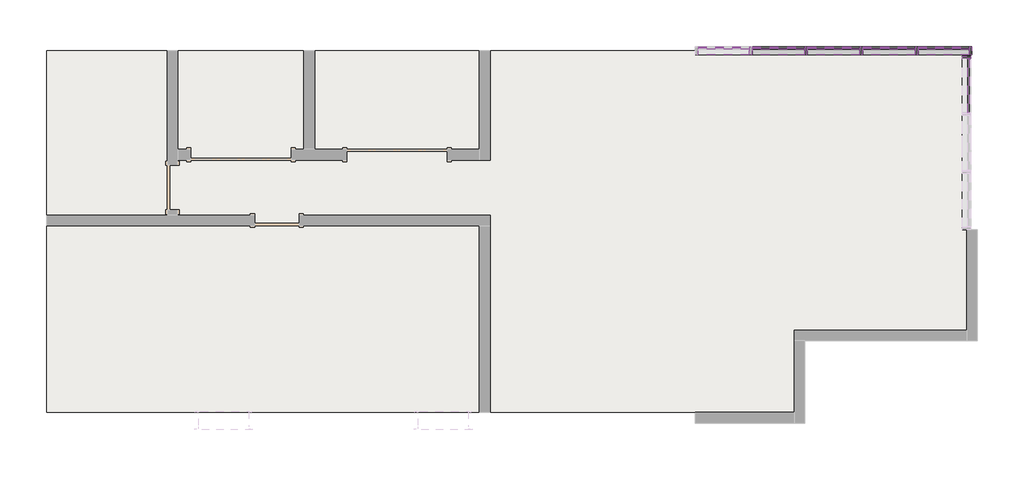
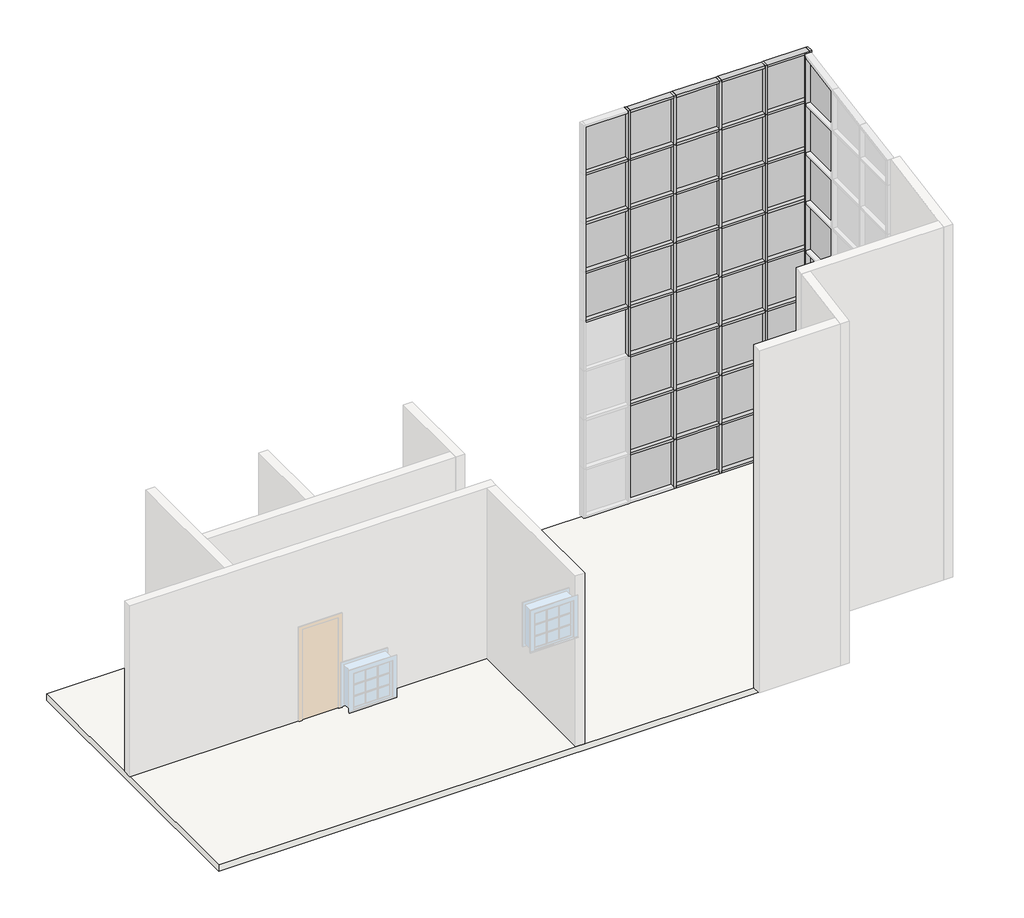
# One storey, part 2 of 2: 85 members, 44 plates, 1 slab.
"""IFC4 building model written with IfcOpenShell, lengths in millimetres."""

from ifc_helpers import new_model, si_unit, frame, origin, place, context, project, spatial, polyline, outline, extrude, transform, mapped, element, save
from components import member_50_x_150mm_5125db45, member_50_x_150mm_73edeec2, member_50_x_150mm_30901565, member_50_x_150mm_0a6a9f7f, member_50_x_150mm_aa95aaac, member_50_x_150mm_038a97c0, member_50_x_150mm_b8228058, member_50_x_150mm_b83a1f72, member_50_x_150mm_050e1f32, plate_c1ab5d1c, plate_5f0fc48b, plate_09d56e0c, plate_5067366c, plate_65d05d4c, plate_045547b7, plate_96cb0325

model = new_model("IFC4")

# Units and contexts
model_context = context("Model", 3, world=origin())
ifc_project = project(units=[si_unit("LENGTHUNIT", "METRE", prefix="MILLI")], contexts=[model_context])

# Site, building, storey
site = spatial("IfcSite", under=ifc_project)
building = spatial("IfcBuilding", under=site)
storey = spatial("IfcBuildingStorey", under=building, Name="01 下方樓層", Elevation=-4000.0)

# Members
placement = place(None, origin())
member_50_x_150mm_shape = member_50_x_150mm_5125db45(model_context)
element("IfcMember", 1, ObjectType="矩形豎框 : 50 x 150mm", at=placement, inside=storey, context=model_context, shape_type="MappedRepresentation", body=[
    mapped(member_50_x_150mm_shape, transform((10602.9445117, 850.8362183, 5199.0234688), x_axis=(0.0, 0.0, 1.0), y_axis=(0.0, -1.0, 0.0), z_axis=(1.0, 0.0, 0.0))),
])
element("IfcMember", 2, ObjectType="矩形豎框 : 50 x 150mm", at=placement, inside=storey, context=model_context, shape_type="MappedRepresentation", body=[
    mapped(member_50_x_150mm_shape, transform((9667.9445117, 850.8362183, -4000.0), x_axis=(0.0, 0.0, -1.0), y_axis=(0.0, -1.0, 0.0), z_axis=(-1.0, 0.0, 0.0))),
])
member_50_x_150mm_2_shape = member_50_x_150mm_73edeec2(model_context)
element("IfcMember", 3, ObjectType="矩形豎框 : 50 x 150mm", at=placement, inside=storey, context=model_context, shape_type="MappedRepresentation", body=[
    mapped(member_50_x_150mm_2_shape, transform((7597.9445117, 850.8362183, 5199.0234688), x_axis=(0.0, 0.0, 1.0), y_axis=(0.0, -1.0, 0.0), z_axis=(1.0, 0.0, 0.0))),
])
element("IfcMember", 4, ObjectType="矩形豎框 : 50 x 150mm", at=placement, inside=storey, context=model_context, shape_type="MappedRepresentation", body=[
    mapped(member_50_x_150mm_2_shape, transform((8607.9445117, 850.8362183, 5199.0234688), x_axis=(0.0, 0.0, 1.0), y_axis=(0.0, -1.0, 0.0), z_axis=(1.0, 0.0, 0.0))),
])
element("IfcMember", 5, ObjectType="矩形豎框 : 50 x 150mm", at=placement, inside=storey, context=model_context, shape_type="MappedRepresentation", body=[
    mapped(member_50_x_150mm_2_shape, transform((9617.9445117, 850.8362183, 5199.0234688), x_axis=(0.0, 0.0, 1.0), y_axis=(0.0, -1.0, 0.0), z_axis=(1.0, 0.0, 0.0))),
])
element("IfcMember", 6, ObjectType="矩形豎框 : 50 x 150mm", at=placement, inside=storey, context=model_context, shape_type="MappedRepresentation", body=[
    mapped(member_50_x_150mm_2_shape, transform((7647.9445117, 850.8362183, -4000.0), x_axis=(0.0, 0.0, -1.0), y_axis=(0.0, -1.0, 0.0), z_axis=(-1.0, 0.0, 0.0))),
])
element("IfcMember", 7, ObjectType="矩形豎框 : 50 x 150mm", at=placement, inside=storey, context=model_context, shape_type="MappedRepresentation", body=[
    mapped(member_50_x_150mm_2_shape, transform((8657.9445117, 850.8362183, -4000.0), x_axis=(0.0, 0.0, -1.0), y_axis=(0.0, -1.0, 0.0), z_axis=(-1.0, 0.0, 0.0))),
])
member_50_x_150mm_3_shape = member_50_x_150mm_30901565(model_context)
element("IfcMember", 8, ObjectType="矩形豎框 : 50 x 150mm", at=placement, inside=storey, context=model_context, shape_type="MappedRepresentation", body=[
    mapped(member_50_x_150mm_3_shape, transform((10602.9445117, 850.8362183, -2850.1220664), x_axis=(0.0, 0.0, 1.0), y_axis=(0.0, -1.0, 0.0), z_axis=(1.0, 0.0, 0.0))),
])
element("IfcMember", 9, ObjectType="矩形豎框 : 50 x 150mm", at=placement, inside=storey, context=model_context, shape_type="MappedRepresentation", body=[
    mapped(member_50_x_150mm_3_shape, transform((10602.9445117, 850.8362183, -1700.2441328), x_axis=(0.0, 0.0, 1.0), y_axis=(0.0, -1.0, 0.0), z_axis=(1.0, 0.0, 0.0))),
])
element("IfcMember", 10, ObjectType="矩形豎框 : 50 x 150mm", at=placement, inside=storey, context=model_context, shape_type="MappedRepresentation", body=[
    mapped(member_50_x_150mm_3_shape, transform((10602.9445117, 850.8362183, -550.3661992), x_axis=(0.0, 0.0, 1.0), y_axis=(0.0, -1.0, 0.0), z_axis=(1.0, 0.0, 0.0))),
])
element("IfcMember", 11, ObjectType="矩形豎框 : 50 x 150mm", at=placement, inside=storey, context=model_context, shape_type="MappedRepresentation", body=[
    mapped(member_50_x_150mm_3_shape, transform((6587.9445117, 850.8362183, 599.5117344), x_axis=(0.0, 0.0, 1.0), y_axis=(0.0, -1.0, 0.0), z_axis=(1.0, 0.0, 0.0))),
])
element("IfcMember", 12, ObjectType="矩形豎框 : 50 x 150mm", at=placement, inside=storey, context=model_context, shape_type="MappedRepresentation", body=[
    mapped(member_50_x_150mm_3_shape, transform((10602.9445117, 850.8362183, 599.5117344), x_axis=(0.0, 0.0, 1.0), y_axis=(0.0, -1.0, 0.0), z_axis=(1.0, 0.0, 0.0))),
])
element("IfcMember", 13, ObjectType="矩形豎框 : 50 x 150mm", at=placement, inside=storey, context=model_context, shape_type="MappedRepresentation", body=[
    mapped(member_50_x_150mm_3_shape, transform((6587.9445117, 850.8362183, 1749.389668), x_axis=(0.0, 0.0, 1.0), y_axis=(0.0, -1.0, 0.0), z_axis=(1.0, 0.0, 0.0))),
])
element("IfcMember", 14, ObjectType="矩形豎框 : 50 x 150mm", at=placement, inside=storey, context=model_context, shape_type="MappedRepresentation", body=[
    mapped(member_50_x_150mm_3_shape, transform((10602.9445117, 850.8362183, 1749.389668), x_axis=(0.0, 0.0, 1.0), y_axis=(0.0, -1.0, 0.0), z_axis=(1.0, 0.0, 0.0))),
])
element("IfcMember", 15, ObjectType="矩形豎框 : 50 x 150mm", at=placement, inside=storey, context=model_context, shape_type="MappedRepresentation", body=[
    mapped(member_50_x_150mm_3_shape, transform((6587.9445117, 850.8362183, 2899.2676016), x_axis=(0.0, 0.0, 1.0), y_axis=(0.0, -1.0, 0.0), z_axis=(1.0, 0.0, 0.0))),
])
element("IfcMember", 16, ObjectType="矩形豎框 : 50 x 150mm", at=placement, inside=storey, context=model_context, shape_type="MappedRepresentation", body=[
    mapped(member_50_x_150mm_3_shape, transform((10602.9445117, 850.8362183, 2899.2676016), x_axis=(0.0, 0.0, 1.0), y_axis=(0.0, -1.0, 0.0), z_axis=(1.0, 0.0, 0.0))),
])
element("IfcMember", 17, ObjectType="矩形豎框 : 50 x 150mm", at=placement, inside=storey, context=model_context, shape_type="MappedRepresentation", body=[
    mapped(member_50_x_150mm_3_shape, transform((6587.9445117, 850.8362183, 4049.1455352), x_axis=(0.0, 0.0, 1.0), y_axis=(0.0, -1.0, 0.0), z_axis=(1.0, 0.0, 0.0))),
])
element("IfcMember", 18, ObjectType="矩形豎框 : 50 x 150mm", at=placement, inside=storey, context=model_context, shape_type="MappedRepresentation", body=[
    mapped(member_50_x_150mm_3_shape, transform((10602.9445117, 850.8362183, 4049.1455352), x_axis=(0.0, 0.0, 1.0), y_axis=(0.0, -1.0, 0.0), z_axis=(1.0, 0.0, 0.0))),
])
member_50_x_150mm_4_shape = member_50_x_150mm_0a6a9f7f(model_context)
element("IfcMember", 19, ObjectType="矩形豎框 : 50 x 150mm", at=placement, inside=storey, context=model_context, shape_type="MappedRepresentation", body=[
    mapped(member_50_x_150mm_4_shape, transform((7597.9445117, 850.8362183, -2850.1220664), x_axis=(0.0, 0.0, 1.0), y_axis=(0.0, -1.0, 0.0), z_axis=(1.0, 0.0, 0.0))),
])
element("IfcMember", 20, ObjectType="矩形豎框 : 50 x 150mm", at=placement, inside=storey, context=model_context, shape_type="MappedRepresentation", body=[
    mapped(member_50_x_150mm_4_shape, transform((8607.9445117, 850.8362183, -2850.1220664), x_axis=(0.0, 0.0, 1.0), y_axis=(0.0, -1.0, 0.0), z_axis=(1.0, 0.0, 0.0))),
])
element("IfcMember", 21, ObjectType="矩形豎框 : 50 x 150mm", at=placement, inside=storey, context=model_context, shape_type="MappedRepresentation", body=[
    mapped(member_50_x_150mm_4_shape, transform((9617.9445117, 850.8362183, -2850.1220664), x_axis=(0.0, 0.0, 1.0), y_axis=(0.0, -1.0, 0.0), z_axis=(1.0, 0.0, 0.0))),
])
element("IfcMember", 22, ObjectType="矩形豎框 : 50 x 150mm", at=placement, inside=storey, context=model_context, shape_type="MappedRepresentation", body=[
    mapped(member_50_x_150mm_4_shape, transform((7597.9445117, 850.8362183, -1700.2441328), x_axis=(0.0, 0.0, 1.0), y_axis=(0.0, -1.0, 0.0), z_axis=(1.0, 0.0, 0.0))),
])
element("IfcMember", 23, ObjectType="矩形豎框 : 50 x 150mm", at=placement, inside=storey, context=model_context, shape_type="MappedRepresentation", body=[
    mapped(member_50_x_150mm_4_shape, transform((8607.9445117, 850.8362183, -1700.2441328), x_axis=(0.0, 0.0, 1.0), y_axis=(0.0, -1.0, 0.0), z_axis=(1.0, 0.0, 0.0))),
])
element("IfcMember", 24, ObjectType="矩形豎框 : 50 x 150mm", at=placement, inside=storey, context=model_context, shape_type="MappedRepresentation", body=[
    mapped(member_50_x_150mm_4_shape, transform((9617.9445117, 850.8362183, -1700.2441328), x_axis=(0.0, 0.0, 1.0), y_axis=(0.0, -1.0, 0.0), z_axis=(1.0, 0.0, 0.0))),
])
element("IfcMember", 25, ObjectType="矩形豎框 : 50 x 150mm", at=placement, inside=storey, context=model_context, shape_type="MappedRepresentation", body=[
    mapped(member_50_x_150mm_4_shape, transform((7597.9445117, 850.8362183, -550.3661992), x_axis=(0.0, 0.0, 1.0), y_axis=(0.0, -1.0, 0.0), z_axis=(1.0, 0.0, 0.0))),
])
element("IfcMember", 26, ObjectType="矩形豎框 : 50 x 150mm", at=placement, inside=storey, context=model_context, shape_type="MappedRepresentation", body=[
    mapped(member_50_x_150mm_4_shape, transform((8607.9445117, 850.8362183, -550.3661992), x_axis=(0.0, 0.0, 1.0), y_axis=(0.0, -1.0, 0.0), z_axis=(1.0, 0.0, 0.0))),
])
element("IfcMember", 27, ObjectType="矩形豎框 : 50 x 150mm", at=placement, inside=storey, context=model_context, shape_type="MappedRepresentation", body=[
    mapped(member_50_x_150mm_4_shape, transform((9617.9445117, 850.8362183, -550.3661992), x_axis=(0.0, 0.0, 1.0), y_axis=(0.0, -1.0, 0.0), z_axis=(1.0, 0.0, 0.0))),
])
element("IfcMember", 28, ObjectType="矩形豎框 : 50 x 150mm", at=placement, inside=storey, context=model_context, shape_type="MappedRepresentation", body=[
    mapped(member_50_x_150mm_4_shape, transform((7597.9445117, 850.8362183, 599.5117344), x_axis=(0.0, 0.0, 1.0), y_axis=(0.0, -1.0, 0.0), z_axis=(1.0, 0.0, 0.0))),
])
element("IfcMember", 29, ObjectType="矩形豎框 : 50 x 150mm", at=placement, inside=storey, context=model_context, shape_type="MappedRepresentation", body=[
    mapped(member_50_x_150mm_4_shape, transform((8607.9445117, 850.8362183, 599.5117344), x_axis=(0.0, 0.0, 1.0), y_axis=(0.0, -1.0, 0.0), z_axis=(1.0, 0.0, 0.0))),
])
element("IfcMember", 30, ObjectType="矩形豎框 : 50 x 150mm", at=placement, inside=storey, context=model_context, shape_type="MappedRepresentation", body=[
    mapped(member_50_x_150mm_4_shape, transform((9617.9445117, 850.8362183, 599.5117344), x_axis=(0.0, 0.0, 1.0), y_axis=(0.0, -1.0, 0.0), z_axis=(1.0, 0.0, 0.0))),
])
element("IfcMember", 31, ObjectType="矩形豎框 : 50 x 150mm", at=placement, inside=storey, context=model_context, shape_type="MappedRepresentation", body=[
    mapped(member_50_x_150mm_4_shape, transform((7597.9445117, 850.8362183, 1749.389668), x_axis=(0.0, 0.0, 1.0), y_axis=(0.0, -1.0, 0.0), z_axis=(1.0, 0.0, 0.0))),
])
element("IfcMember", 32, ObjectType="矩形豎框 : 50 x 150mm", at=placement, inside=storey, context=model_context, shape_type="MappedRepresentation", body=[
    mapped(member_50_x_150mm_4_shape, transform((8607.9445117, 850.8362183, 1749.389668), x_axis=(0.0, 0.0, 1.0), y_axis=(0.0, -1.0, 0.0), z_axis=(1.0, 0.0, 0.0))),
])
element("IfcMember", 33, ObjectType="矩形豎框 : 50 x 150mm", at=placement, inside=storey, context=model_context, shape_type="MappedRepresentation", body=[
    mapped(member_50_x_150mm_4_shape, transform((9617.9445117, 850.8362183, 1749.389668), x_axis=(0.0, 0.0, 1.0), y_axis=(0.0, -1.0, 0.0), z_axis=(1.0, 0.0, 0.0))),
])
element("IfcMember", 34, ObjectType="矩形豎框 : 50 x 150mm", at=placement, inside=storey, context=model_context, shape_type="MappedRepresentation", body=[
    mapped(member_50_x_150mm_4_shape, transform((7597.9445117, 850.8362183, 2899.2676016), x_axis=(0.0, 0.0, 1.0), y_axis=(0.0, -1.0, 0.0), z_axis=(1.0, 0.0, 0.0))),
])
element("IfcMember", 35, ObjectType="矩形豎框 : 50 x 150mm", at=placement, inside=storey, context=model_context, shape_type="MappedRepresentation", body=[
    mapped(member_50_x_150mm_4_shape, transform((8607.9445117, 850.8362183, 2899.2676016), x_axis=(0.0, 0.0, 1.0), y_axis=(0.0, -1.0, 0.0), z_axis=(1.0, 0.0, 0.0))),
])
element("IfcMember", 36, ObjectType="矩形豎框 : 50 x 150mm", at=placement, inside=storey, context=model_context, shape_type="MappedRepresentation", body=[
    mapped(member_50_x_150mm_4_shape, transform((9617.9445117, 850.8362183, 2899.2676016), x_axis=(0.0, 0.0, 1.0), y_axis=(0.0, -1.0, 0.0), z_axis=(1.0, 0.0, 0.0))),
])
element("IfcMember", 37, ObjectType="矩形豎框 : 50 x 150mm", at=placement, inside=storey, context=model_context, shape_type="MappedRepresentation", body=[
    mapped(member_50_x_150mm_4_shape, transform((7597.9445117, 850.8362183, 4049.1455352), x_axis=(0.0, 0.0, 1.0), y_axis=(0.0, -1.0, 0.0), z_axis=(1.0, 0.0, 0.0))),
])
element("IfcMember", 38, ObjectType="矩形豎框 : 50 x 150mm", at=placement, inside=storey, context=model_context, shape_type="MappedRepresentation", body=[
    mapped(member_50_x_150mm_4_shape, transform((8607.9445117, 850.8362183, 4049.1455352), x_axis=(0.0, 0.0, 1.0), y_axis=(0.0, -1.0, 0.0), z_axis=(1.0, 0.0, 0.0))),
])
element("IfcMember", 39, ObjectType="矩形豎框 : 50 x 150mm", at=placement, inside=storey, context=model_context, shape_type="MappedRepresentation", body=[
    mapped(member_50_x_150mm_4_shape, transform((9617.9445117, 850.8362183, 4049.1455352), x_axis=(0.0, 0.0, 1.0), y_axis=(0.0, -1.0, 0.0), z_axis=(1.0, 0.0, 0.0))),
])
member_50_x_150mm_5_shape = member_50_x_150mm_aa95aaac(model_context)
element("IfcMember", 40, ObjectType="矩形豎框 : 50 x 150mm", at=placement, inside=storey, context=model_context, shape_type="MappedRepresentation", body=[
    mapped(member_50_x_150mm_5_shape, transform((7622.9445117, 850.8362183, -4000.0), x_axis=(1.0, 0.0, 0.0), y_axis=(0.0, -1.0, 0.0), z_axis=(0.0, 0.0, -1.0))),
])
element("IfcMember", 41, ObjectType="矩形豎框 : 50 x 150mm", at=placement, inside=storey, context=model_context, shape_type="MappedRepresentation", body=[
    mapped(member_50_x_150mm_5_shape, transform((8632.9445117, 850.8362183, -4000.0), x_axis=(1.0, 0.0, 0.0), y_axis=(0.0, -1.0, 0.0), z_axis=(0.0, 0.0, -1.0))),
])
element("IfcMember", 42, ObjectType="矩形豎框 : 50 x 150mm", at=placement, inside=storey, context=model_context, shape_type="MappedRepresentation", body=[
    mapped(member_50_x_150mm_5_shape, transform((9642.9445117, 850.8362183, -4000.0), x_axis=(1.0, 0.0, 0.0), y_axis=(0.0, -1.0, 0.0), z_axis=(0.0, 0.0, -1.0))),
])
element("IfcMember", 43, ObjectType="矩形豎框 : 50 x 150mm", at=placement, inside=storey, context=model_context, shape_type="MappedRepresentation", body=[
    mapped(member_50_x_150mm_5_shape, transform((7622.9445117, 850.8362183, -2850.1220664), x_axis=(1.0, 0.0, 0.0), y_axis=(0.0, -1.0, 0.0), z_axis=(0.0, 0.0, -1.0))),
])
element("IfcMember", 44, ObjectType="矩形豎框 : 50 x 150mm", at=placement, inside=storey, context=model_context, shape_type="MappedRepresentation", body=[
    mapped(member_50_x_150mm_5_shape, transform((8632.9445117, 850.8362183, -2850.1220664), x_axis=(1.0, 0.0, 0.0), y_axis=(0.0, -1.0, 0.0), z_axis=(0.0, 0.0, -1.0))),
])
element("IfcMember", 45, ObjectType="矩形豎框 : 50 x 150mm", at=placement, inside=storey, context=model_context, shape_type="MappedRepresentation", body=[
    mapped(member_50_x_150mm_5_shape, transform((7622.9445117, 850.8362183, -1700.2441328), x_axis=(1.0, 0.0, 0.0), y_axis=(0.0, -1.0, 0.0), z_axis=(0.0, 0.0, -1.0))),
])
element("IfcMember", 46, ObjectType="矩形豎框 : 50 x 150mm", at=placement, inside=storey, context=model_context, shape_type="MappedRepresentation", body=[
    mapped(member_50_x_150mm_5_shape, transform((8632.9445117, 850.8362183, -1700.2441328), x_axis=(1.0, 0.0, 0.0), y_axis=(0.0, -1.0, 0.0), z_axis=(0.0, 0.0, -1.0))),
])
element("IfcMember", 47, ObjectType="矩形豎框 : 50 x 150mm", at=placement, inside=storey, context=model_context, shape_type="MappedRepresentation", body=[
    mapped(member_50_x_150mm_5_shape, transform((6612.9445117, 850.8362183, -550.3661992), x_axis=(1.0, 0.0, 0.0), y_axis=(0.0, -1.0, 0.0), z_axis=(0.0, 0.0, -1.0))),
])
element("IfcMember", 48, ObjectType="矩形豎框 : 50 x 150mm", at=placement, inside=storey, context=model_context, shape_type="MappedRepresentation", body=[
    mapped(member_50_x_150mm_5_shape, transform((7622.9445117, 850.8362183, -550.3661992), x_axis=(1.0, 0.0, 0.0), y_axis=(0.0, -1.0, 0.0), z_axis=(0.0, 0.0, -1.0))),
])
element("IfcMember", 49, ObjectType="矩形豎框 : 50 x 150mm", at=placement, inside=storey, context=model_context, shape_type="MappedRepresentation", body=[
    mapped(member_50_x_150mm_5_shape, transform((8632.9445117, 850.8362183, -550.3661992), x_axis=(1.0, 0.0, 0.0), y_axis=(0.0, -1.0, 0.0), z_axis=(0.0, 0.0, -1.0))),
])
element("IfcMember", 50, ObjectType="矩形豎框 : 50 x 150mm", at=placement, inside=storey, context=model_context, shape_type="MappedRepresentation", body=[
    mapped(member_50_x_150mm_5_shape, transform((6612.9445117, 850.8362183, 599.5117344), x_axis=(1.0, 0.0, 0.0), y_axis=(0.0, -1.0, 0.0), z_axis=(0.0, 0.0, -1.0))),
])
element("IfcMember", 51, ObjectType="矩形豎框 : 50 x 150mm", at=placement, inside=storey, context=model_context, shape_type="MappedRepresentation", body=[
    mapped(member_50_x_150mm_5_shape, transform((6612.9445117, 850.8362183, 1749.389668), x_axis=(1.0, 0.0, 0.0), y_axis=(0.0, -1.0, 0.0), z_axis=(0.0, 0.0, -1.0))),
])
element("IfcMember", 52, ObjectType="矩形豎框 : 50 x 150mm", at=placement, inside=storey, context=model_context, shape_type="MappedRepresentation", body=[
    mapped(member_50_x_150mm_5_shape, transform((6612.9445117, 850.8362183, 2899.2676016), x_axis=(1.0, 0.0, 0.0), y_axis=(0.0, -1.0, 0.0), z_axis=(0.0, 0.0, -1.0))),
])
element("IfcMember", 53, ObjectType="矩形豎框 : 50 x 150mm", at=placement, inside=storey, context=model_context, shape_type="MappedRepresentation", body=[
    mapped(member_50_x_150mm_5_shape, transform((7622.9445117, 850.8362183, 599.5117344), x_axis=(1.0, 0.0, 0.0), y_axis=(0.0, -1.0, 0.0), z_axis=(0.0, 0.0, -1.0))),
])
element("IfcMember", 54, ObjectType="矩形豎框 : 50 x 150mm", at=placement, inside=storey, context=model_context, shape_type="MappedRepresentation", body=[
    mapped(member_50_x_150mm_5_shape, transform((7622.9445117, 850.8362183, 1749.389668), x_axis=(1.0, 0.0, 0.0), y_axis=(0.0, -1.0, 0.0), z_axis=(0.0, 0.0, -1.0))),
])
element("IfcMember", 55, ObjectType="矩形豎框 : 50 x 150mm", at=placement, inside=storey, context=model_context, shape_type="MappedRepresentation", body=[
    mapped(member_50_x_150mm_5_shape, transform((7622.9445117, 850.8362183, 2899.2676016), x_axis=(1.0, 0.0, 0.0), y_axis=(0.0, -1.0, 0.0), z_axis=(0.0, 0.0, -1.0))),
])
element("IfcMember", 56, ObjectType="矩形豎框 : 50 x 150mm", at=placement, inside=storey, context=model_context, shape_type="MappedRepresentation", body=[
    mapped(member_50_x_150mm_5_shape, transform((8632.9445117, 850.8362183, 599.5117344), x_axis=(1.0, 0.0, 0.0), y_axis=(0.0, -1.0, 0.0), z_axis=(0.0, 0.0, -1.0))),
])
element("IfcMember", 57, ObjectType="矩形豎框 : 50 x 150mm", at=placement, inside=storey, context=model_context, shape_type="MappedRepresentation", body=[
    mapped(member_50_x_150mm_5_shape, transform((8632.9445117, 850.8362183, 1749.389668), x_axis=(1.0, 0.0, 0.0), y_axis=(0.0, -1.0, 0.0), z_axis=(0.0, 0.0, -1.0))),
])
element("IfcMember", 58, ObjectType="矩形豎框 : 50 x 150mm", at=placement, inside=storey, context=model_context, shape_type="MappedRepresentation", body=[
    mapped(member_50_x_150mm_5_shape, transform((8632.9445117, 850.8362183, 2899.2676016), x_axis=(1.0, 0.0, 0.0), y_axis=(0.0, -1.0, 0.0), z_axis=(0.0, 0.0, -1.0))),
])
element("IfcMember", 59, ObjectType="矩形豎框 : 50 x 150mm", at=placement, inside=storey, context=model_context, shape_type="MappedRepresentation", body=[
    mapped(member_50_x_150mm_5_shape, transform((9642.9445117, 850.8362183, -2850.1220664), x_axis=(1.0, 0.0, 0.0), y_axis=(0.0, -1.0, 0.0), z_axis=(0.0, 0.0, -1.0))),
])
element("IfcMember", 60, ObjectType="矩形豎框 : 50 x 150mm", at=placement, inside=storey, context=model_context, shape_type="MappedRepresentation", body=[
    mapped(member_50_x_150mm_5_shape, transform((9642.9445117, 850.8362183, -1700.2441328), x_axis=(1.0, 0.0, 0.0), y_axis=(0.0, -1.0, 0.0), z_axis=(0.0, 0.0, -1.0))),
])
element("IfcMember", 61, ObjectType="矩形豎框 : 50 x 150mm", at=placement, inside=storey, context=model_context, shape_type="MappedRepresentation", body=[
    mapped(member_50_x_150mm_5_shape, transform((9642.9445117, 850.8362183, -550.3661992), x_axis=(1.0, 0.0, 0.0), y_axis=(0.0, -1.0, 0.0), z_axis=(0.0, 0.0, -1.0))),
])
element("IfcMember", 62, ObjectType="矩形豎框 : 50 x 150mm", at=placement, inside=storey, context=model_context, shape_type="MappedRepresentation", body=[
    mapped(member_50_x_150mm_5_shape, transform((9642.9445117, 850.8362183, 599.5117344), x_axis=(1.0, 0.0, 0.0), y_axis=(0.0, -1.0, 0.0), z_axis=(0.0, 0.0, -1.0))),
])
element("IfcMember", 63, ObjectType="矩形豎框 : 50 x 150mm", at=placement, inside=storey, context=model_context, shape_type="MappedRepresentation", body=[
    mapped(member_50_x_150mm_5_shape, transform((9642.9445117, 850.8362183, 1749.389668), x_axis=(1.0, 0.0, 0.0), y_axis=(0.0, -1.0, 0.0), z_axis=(0.0, 0.0, -1.0))),
])
element("IfcMember", 64, ObjectType="矩形豎框 : 50 x 150mm", at=placement, inside=storey, context=model_context, shape_type="MappedRepresentation", body=[
    mapped(member_50_x_150mm_5_shape, transform((9642.9445117, 850.8362183, 2899.2676016), x_axis=(1.0, 0.0, 0.0), y_axis=(0.0, -1.0, 0.0), z_axis=(0.0, 0.0, -1.0))),
])
element("IfcMember", 65, ObjectType="矩形豎框 : 50 x 150mm", at=placement, inside=storey, context=model_context, shape_type="MappedRepresentation", body=[
    mapped(member_50_x_150mm_5_shape, transform((6612.9445117, 850.8362183, 4049.1455352), x_axis=(1.0, 0.0, 0.0), y_axis=(0.0, -1.0, 0.0), z_axis=(0.0, 0.0, -1.0))),
])
element("IfcMember", 66, ObjectType="矩形豎框 : 50 x 150mm", at=placement, inside=storey, context=model_context, shape_type="MappedRepresentation", body=[
    mapped(member_50_x_150mm_5_shape, transform((7622.9445117, 850.8362183, 4049.1455352), x_axis=(1.0, 0.0, 0.0), y_axis=(0.0, -1.0, 0.0), z_axis=(0.0, 0.0, -1.0))),
])
element("IfcMember", 67, ObjectType="矩形豎框 : 50 x 150mm", at=placement, inside=storey, context=model_context, shape_type="MappedRepresentation", body=[
    mapped(member_50_x_150mm_5_shape, transform((8632.9445117, 850.8362183, 4049.1455352), x_axis=(1.0, 0.0, 0.0), y_axis=(0.0, -1.0, 0.0), z_axis=(0.0, 0.0, -1.0))),
])
element("IfcMember", 68, ObjectType="矩形豎框 : 50 x 150mm", at=placement, inside=storey, context=model_context, shape_type="MappedRepresentation", body=[
    mapped(member_50_x_150mm_5_shape, transform((9642.9445117, 850.8362183, 4049.1455352), x_axis=(1.0, 0.0, 0.0), y_axis=(0.0, -1.0, 0.0), z_axis=(0.0, 0.0, -1.0))),
])
member_50_x_150mm_6_shape = member_50_x_150mm_038a97c0(model_context)
element("IfcMember", 69, ObjectType="矩形豎框 : 50 x 150mm", at=placement, inside=storey, context=model_context, shape_type="MappedRepresentation", body=[
    mapped(member_50_x_150mm_6_shape, transform((10552.9445117, 700.8362183, -4000.0), x_axis=(0.0, 0.0, -1.0), y_axis=(-1.0, 0.0, 0.0), z_axis=(0.0, 1.0, 0.0))),
])
member_50_x_150mm_7_shape = member_50_x_150mm_b8228058(model_context)
element("IfcMember", 70, ObjectType="矩形豎框 : 50 x 150mm", at=placement, inside=storey, context=model_context, shape_type="MappedRepresentation", body=[
    mapped(member_50_x_150mm_7_shape, transform((10552.9445117, 750.8362183, 5181.3907707), x_axis=(0.0, 1.0, 0.0), y_axis=(-1.0, 0.0, 0.0), z_axis=(0.0, 0.0, 1.0))),
])
member_50_x_150mm_8_shape = member_50_x_150mm_b83a1f72(model_context)
element("IfcMember", 71, ObjectType="矩形豎框 : 50 x 150mm", at=placement, inside=storey, context=model_context, shape_type="MappedRepresentation", body=[
    mapped(member_50_x_150mm_8_shape, transform((10552.9445117, 750.8362183, -2852.3261537), x_axis=(0.0, 1.0, 0.0), y_axis=(-1.0, 0.0, 0.0), z_axis=(0.0, 0.0, 1.0))),
])
element("IfcMember", 72, ObjectType="矩形豎框 : 50 x 150mm", at=placement, inside=storey, context=model_context, shape_type="MappedRepresentation", body=[
    mapped(member_50_x_150mm_8_shape, transform((10552.9445117, 750.8362183, -1704.6523073), x_axis=(0.0, 1.0, 0.0), y_axis=(-1.0, 0.0, 0.0), z_axis=(0.0, 0.0, 1.0))),
])
element("IfcMember", 73, ObjectType="矩形豎框 : 50 x 150mm", at=placement, inside=storey, context=model_context, shape_type="MappedRepresentation", body=[
    mapped(member_50_x_150mm_8_shape, transform((10552.9445117, 750.8362183, -556.978461), x_axis=(0.0, 1.0, 0.0), y_axis=(-1.0, 0.0, 0.0), z_axis=(0.0, 0.0, 1.0))),
])
element("IfcMember", 74, ObjectType="矩形豎框 : 50 x 150mm", at=placement, inside=storey, context=model_context, shape_type="MappedRepresentation", body=[
    mapped(member_50_x_150mm_8_shape, transform((10552.9445117, 750.8362183, 590.6953854), x_axis=(0.0, 1.0, 0.0), y_axis=(-1.0, 0.0, 0.0), z_axis=(0.0, 0.0, 1.0))),
])
element("IfcMember", 75, ObjectType="矩形豎框 : 50 x 150mm", at=placement, inside=storey, context=model_context, shape_type="MappedRepresentation", body=[
    mapped(member_50_x_150mm_8_shape, transform((10552.9445117, 750.8362183, 1738.3692317), x_axis=(0.0, 1.0, 0.0), y_axis=(-1.0, 0.0, 0.0), z_axis=(0.0, 0.0, 1.0))),
])
element("IfcMember", 76, ObjectType="矩形豎框 : 50 x 150mm", at=placement, inside=storey, context=model_context, shape_type="MappedRepresentation", body=[
    mapped(member_50_x_150mm_8_shape, transform((10552.9445117, 750.8362183, 2886.0430781), x_axis=(0.0, 1.0, 0.0), y_axis=(-1.0, 0.0, 0.0), z_axis=(0.0, 0.0, 1.0))),
])
element("IfcMember", 77, ObjectType="矩形豎框 : 50 x 150mm", at=placement, inside=storey, context=model_context, shape_type="MappedRepresentation", body=[
    mapped(member_50_x_150mm_8_shape, transform((10552.9445117, 750.8362183, 4033.7169244), x_axis=(0.0, 1.0, 0.0), y_axis=(-1.0, 0.0, 0.0), z_axis=(0.0, 0.0, 1.0))),
])
member_50_x_150mm_9_shape = member_50_x_150mm_050e1f32(model_context)
element("IfcMember", 78, ObjectType="矩形豎框 : 50 x 150mm", at=placement, inside=storey, context=model_context, shape_type="MappedRepresentation", body=[
    mapped(member_50_x_150mm_9_shape, transform((10652.9445117, 850.8362183, -4000.0), x_axis=(1.0, 0.0, 0.0), y_axis=(0.0, -1.0, 0.0), z_axis=(0.0, 0.0, -1.0))),
])
element("IfcMember", 79, ObjectType="矩形豎框 : 50 x 150mm", at=placement, inside=storey, context=model_context, shape_type="MappedRepresentation", body=[
    mapped(member_50_x_150mm_9_shape, transform((10652.9445117, 850.8362183, -2850.1220664), x_axis=(1.0, 0.0, 0.0), y_axis=(0.0, -1.0, 0.0), z_axis=(0.0, 0.0, -1.0))),
])
element("IfcMember", 80, ObjectType="矩形豎框 : 50 x 150mm", at=placement, inside=storey, context=model_context, shape_type="MappedRepresentation", body=[
    mapped(member_50_x_150mm_9_shape, transform((10652.9445117, 850.8362183, -1700.2441328), x_axis=(1.0, 0.0, 0.0), y_axis=(0.0, -1.0, 0.0), z_axis=(0.0, 0.0, -1.0))),
])
element("IfcMember", 81, ObjectType="矩形豎框 : 50 x 150mm", at=placement, inside=storey, context=model_context, shape_type="MappedRepresentation", body=[
    mapped(member_50_x_150mm_9_shape, transform((10652.9445117, 850.8362183, -550.3661992), x_axis=(1.0, 0.0, 0.0), y_axis=(0.0, -1.0, 0.0), z_axis=(0.0, 0.0, -1.0))),
])
element("IfcMember", 82, ObjectType="矩形豎框 : 50 x 150mm", at=placement, inside=storey, context=model_context, shape_type="MappedRepresentation", body=[
    mapped(member_50_x_150mm_9_shape, transform((10652.9445117, 850.8362183, 599.5117344), x_axis=(1.0, 0.0, 0.0), y_axis=(0.0, -1.0, 0.0), z_axis=(0.0, 0.0, -1.0))),
])
element("IfcMember", 83, ObjectType="矩形豎框 : 50 x 150mm", at=placement, inside=storey, context=model_context, shape_type="MappedRepresentation", body=[
    mapped(member_50_x_150mm_9_shape, transform((10652.9445117, 850.8362183, 1749.389668), x_axis=(1.0, 0.0, 0.0), y_axis=(0.0, -1.0, 0.0), z_axis=(0.0, 0.0, -1.0))),
])
element("IfcMember", 84, ObjectType="矩形豎框 : 50 x 150mm", at=placement, inside=storey, context=model_context, shape_type="MappedRepresentation", body=[
    mapped(member_50_x_150mm_9_shape, transform((10652.9445117, 850.8362183, 2899.2676016), x_axis=(1.0, 0.0, 0.0), y_axis=(0.0, -1.0, 0.0), z_axis=(0.0, 0.0, -1.0))),
])
element("IfcMember", 85, ObjectType="矩形豎框 : 50 x 150mm", at=placement, inside=storey, context=model_context, shape_type="MappedRepresentation", body=[
    mapped(member_50_x_150mm_9_shape, transform((10652.9445117, 850.8362183, 4049.1455352), x_axis=(1.0, 0.0, 0.0), y_axis=(0.0, -1.0, 0.0), z_axis=(0.0, 0.0, -1.0))),
])

# Plates
plate_shape = plate_c1ab5d1c(model_context)
element("IfcPlate", 86, ObjectType="系統嵌板 : 有玻璃的", at=placement, inside=storey, context=model_context, shape_type="MappedRepresentation", body=[
    mapped(plate_shape, transform((10552.9445117, 210.0028849, -3950.0), x_axis=(0.0, -1.0, 0.0), y_axis=(1.0, 0.0, 0.0), z_axis=(0.0, 0.0, 1.0))),
])
plate_2_shape = plate_5f0fc48b(model_context)
element("IfcPlate", 87, ObjectType="系統嵌板 : 有玻璃的", at=placement, inside=storey, context=model_context, shape_type="MappedRepresentation", body=[
    mapped(plate_2_shape, transform((10552.9445117, 210.0028849, -2827.3261537), x_axis=(0.0, -1.0, 0.0), y_axis=(1.0, 0.0, 0.0), z_axis=(0.0, 0.0, 1.0))),
])
element("IfcPlate", 88, ObjectType="系統嵌板 : 有玻璃的", at=placement, inside=storey, context=model_context, shape_type="MappedRepresentation", body=[
    mapped(plate_2_shape, transform((10552.9445117, 210.0028849, -1679.6523073), x_axis=(0.0, -1.0, 0.0), y_axis=(1.0, 0.0, 0.0), z_axis=(0.0, 0.0, 1.0))),
])
element("IfcPlate", 89, ObjectType="系統嵌板 : 有玻璃的", at=placement, inside=storey, context=model_context, shape_type="MappedRepresentation", body=[
    mapped(plate_2_shape, transform((10552.9445117, 210.0028849, -531.978461), x_axis=(0.0, -1.0, 0.0), y_axis=(1.0, 0.0, 0.0), z_axis=(0.0, 0.0, 1.0))),
])
element("IfcPlate", 90, ObjectType="系統嵌板 : 有玻璃的", at=placement, inside=storey, context=model_context, shape_type="MappedRepresentation", body=[
    mapped(plate_2_shape, transform((10552.9445117, 210.0028849, 615.6953854), x_axis=(0.0, -1.0, 0.0), y_axis=(1.0, 0.0, 0.0), z_axis=(0.0, 0.0, 1.0))),
])
element("IfcPlate", 91, ObjectType="系統嵌板 : 有玻璃的", at=placement, inside=storey, context=model_context, shape_type="MappedRepresentation", body=[
    mapped(plate_2_shape, transform((10552.9445117, 210.0028849, 1763.3692317), x_axis=(0.0, -1.0, 0.0), y_axis=(1.0, 0.0, 0.0), z_axis=(0.0, 0.0, 1.0))),
])
element("IfcPlate", 92, ObjectType="系統嵌板 : 有玻璃的", at=placement, inside=storey, context=model_context, shape_type="MappedRepresentation", body=[
    mapped(plate_2_shape, transform((10552.9445117, 210.0028849, 2911.0430781), x_axis=(0.0, -1.0, 0.0), y_axis=(1.0, 0.0, 0.0), z_axis=(0.0, 0.0, 1.0))),
])
plate_3_shape = plate_09d56e0c(model_context)
element("IfcPlate", 93, ObjectType="系統嵌板 : 有玻璃的", at=placement, inside=storey, context=model_context, shape_type="MappedRepresentation", body=[
    mapped(plate_3_shape, transform((10135.4445117, 850.8362183, -3950.0), x_axis=(1.0, 0.0, 0.0), y_axis=(0.0, 1.0, 0.0), z_axis=(0.0, 0.0, 1.0))),
])
element("IfcPlate", 94, ObjectType="系統嵌板 : 有玻璃的", at=placement, inside=storey, context=model_context, shape_type="MappedRepresentation", body=[
    mapped(plate_3_shape, transform((6120.4445117, 850.8362183, 4074.1455352), x_axis=(1.0, 0.0, 0.0), y_axis=(0.0, 1.0, 0.0), z_axis=(0.0, 0.0, 1.0))),
])
element("IfcPlate", 95, ObjectType="系統嵌板 : 有玻璃的", at=placement, inside=storey, context=model_context, shape_type="MappedRepresentation", body=[
    mapped(plate_3_shape, transform((10135.4445117, 850.8362183, 4074.1455352), x_axis=(1.0, 0.0, 0.0), y_axis=(0.0, 1.0, 0.0), z_axis=(0.0, 0.0, 1.0))),
])
plate_4_shape = plate_5067366c(model_context)
element("IfcPlate", 96, ObjectType="系統嵌板 : 有玻璃的", at=placement, inside=storey, context=model_context, shape_type="MappedRepresentation", body=[
    mapped(plate_4_shape, transform((7117.9445117, 850.8362183, -3950.0), x_axis=(1.0, 0.0, 0.0), y_axis=(0.0, 1.0, 0.0), z_axis=(0.0, 0.0, 1.0))),
])
element("IfcPlate", 97, ObjectType="系統嵌板 : 有玻璃的", at=placement, inside=storey, context=model_context, shape_type="MappedRepresentation", body=[
    mapped(plate_4_shape, transform((8127.9445117, 850.8362183, -3950.0), x_axis=(1.0, 0.0, 0.0), y_axis=(0.0, 1.0, 0.0), z_axis=(0.0, 0.0, 1.0))),
])
element("IfcPlate", 98, ObjectType="系統嵌板 : 有玻璃的", at=placement, inside=storey, context=model_context, shape_type="MappedRepresentation", body=[
    mapped(plate_4_shape, transform((9137.9445117, 850.8362183, -3950.0), x_axis=(1.0, 0.0, 0.0), y_axis=(0.0, 1.0, 0.0), z_axis=(0.0, 0.0, 1.0))),
])
element("IfcPlate", 99, ObjectType="系統嵌板 : 有玻璃的", at=placement, inside=storey, context=model_context, shape_type="MappedRepresentation", body=[
    mapped(plate_4_shape, transform((7117.9445117, 850.8362183, 4074.1455352), x_axis=(1.0, 0.0, 0.0), y_axis=(0.0, 1.0, 0.0), z_axis=(0.0, 0.0, 1.0))),
])
element("IfcPlate", 100, ObjectType="系統嵌板 : 有玻璃的", at=placement, inside=storey, context=model_context, shape_type="MappedRepresentation", body=[
    mapped(plate_4_shape, transform((8127.9445117, 850.8362183, 4074.1455352), x_axis=(1.0, 0.0, 0.0), y_axis=(0.0, 1.0, 0.0), z_axis=(0.0, 0.0, 1.0))),
])
element("IfcPlate", 101, ObjectType="系統嵌板 : 有玻璃的", at=placement, inside=storey, context=model_context, shape_type="MappedRepresentation", body=[
    mapped(plate_4_shape, transform((9137.9445117, 850.8362183, 4074.1455352), x_axis=(1.0, 0.0, 0.0), y_axis=(0.0, 1.0, 0.0), z_axis=(0.0, 0.0, 1.0))),
])
plate_5_shape = plate_65d05d4c(model_context)
element("IfcPlate", 102, ObjectType="系統嵌板 : 有玻璃的", at=placement, inside=storey, context=model_context, shape_type="MappedRepresentation", body=[
    mapped(plate_5_shape, transform((10135.4445117, 850.8362183, -2825.1220664), x_axis=(1.0, 0.0, 0.0), y_axis=(0.0, 1.0, 0.0), z_axis=(0.0, 0.0, 1.0))),
])
element("IfcPlate", 103, ObjectType="系統嵌板 : 有玻璃的", at=placement, inside=storey, context=model_context, shape_type="MappedRepresentation", body=[
    mapped(plate_5_shape, transform((10135.4445117, 850.8362183, -1675.2441328), x_axis=(1.0, 0.0, 0.0), y_axis=(0.0, 1.0, 0.0), z_axis=(0.0, 0.0, 1.0))),
])
element("IfcPlate", 104, ObjectType="系統嵌板 : 有玻璃的", at=placement, inside=storey, context=model_context, shape_type="MappedRepresentation", body=[
    mapped(plate_5_shape, transform((10135.4445117, 850.8362183, -525.3661992), x_axis=(1.0, 0.0, 0.0), y_axis=(0.0, 1.0, 0.0), z_axis=(0.0, 0.0, 1.0))),
])
element("IfcPlate", 105, ObjectType="系統嵌板 : 有玻璃的", at=placement, inside=storey, context=model_context, shape_type="MappedRepresentation", body=[
    mapped(plate_5_shape, transform((6120.4445117, 850.8362183, 624.5117344), x_axis=(1.0, 0.0, 0.0), y_axis=(0.0, 1.0, 0.0), z_axis=(0.0, 0.0, 1.0))),
])
element("IfcPlate", 106, ObjectType="系統嵌板 : 有玻璃的", at=placement, inside=storey, context=model_context, shape_type="MappedRepresentation", body=[
    mapped(plate_5_shape, transform((10135.4445117, 850.8362183, 624.5117344), x_axis=(1.0, 0.0, 0.0), y_axis=(0.0, 1.0, 0.0), z_axis=(0.0, 0.0, 1.0))),
])
element("IfcPlate", 107, ObjectType="系統嵌板 : 有玻璃的", at=placement, inside=storey, context=model_context, shape_type="MappedRepresentation", body=[
    mapped(plate_5_shape, transform((6120.4445117, 850.8362183, 1774.389668), x_axis=(1.0, 0.0, 0.0), y_axis=(0.0, 1.0, 0.0), z_axis=(0.0, 0.0, 1.0))),
])
element("IfcPlate", 108, ObjectType="系統嵌板 : 有玻璃的", at=placement, inside=storey, context=model_context, shape_type="MappedRepresentation", body=[
    mapped(plate_5_shape, transform((10135.4445117, 850.8362183, 1774.389668), x_axis=(1.0, 0.0, 0.0), y_axis=(0.0, 1.0, 0.0), z_axis=(0.0, 0.0, 1.0))),
])
element("IfcPlate", 109, ObjectType="系統嵌板 : 有玻璃的", at=placement, inside=storey, context=model_context, shape_type="MappedRepresentation", body=[
    mapped(plate_5_shape, transform((6120.4445117, 850.8362183, 2924.2676016), x_axis=(1.0, 0.0, 0.0), y_axis=(0.0, 1.0, 0.0), z_axis=(0.0, 0.0, 1.0))),
])
element("IfcPlate", 110, ObjectType="系統嵌板 : 有玻璃的", at=placement, inside=storey, context=model_context, shape_type="MappedRepresentation", body=[
    mapped(plate_5_shape, transform((10135.4445117, 850.8362183, 2924.2676016), x_axis=(1.0, 0.0, 0.0), y_axis=(0.0, 1.0, 0.0), z_axis=(0.0, 0.0, 1.0))),
])
plate_6_shape = plate_045547b7(model_context)
element("IfcPlate", 111, ObjectType="系統嵌板 : 有玻璃的", at=placement, inside=storey, context=model_context, shape_type="MappedRepresentation", body=[
    mapped(plate_6_shape, transform((7117.9445117, 850.8362183, -2825.1220664), x_axis=(1.0, 0.0, 0.0), y_axis=(0.0, 1.0, 0.0), z_axis=(0.0, 0.0, 1.0))),
])
element("IfcPlate", 112, ObjectType="系統嵌板 : 有玻璃的", at=placement, inside=storey, context=model_context, shape_type="MappedRepresentation", body=[
    mapped(plate_6_shape, transform((8127.9445117, 850.8362183, -2825.1220664), x_axis=(1.0, 0.0, 0.0), y_axis=(0.0, 1.0, 0.0), z_axis=(0.0, 0.0, 1.0))),
])
element("IfcPlate", 113, ObjectType="系統嵌板 : 有玻璃的", at=placement, inside=storey, context=model_context, shape_type="MappedRepresentation", body=[
    mapped(plate_6_shape, transform((9137.9445117, 850.8362183, -2825.1220664), x_axis=(1.0, 0.0, 0.0), y_axis=(0.0, 1.0, 0.0), z_axis=(0.0, 0.0, 1.0))),
])
element("IfcPlate", 114, ObjectType="系統嵌板 : 有玻璃的", at=placement, inside=storey, context=model_context, shape_type="MappedRepresentation", body=[
    mapped(plate_6_shape, transform((7117.9445117, 850.8362183, -1675.2441328), x_axis=(1.0, 0.0, 0.0), y_axis=(0.0, 1.0, 0.0), z_axis=(0.0, 0.0, 1.0))),
])
element("IfcPlate", 115, ObjectType="系統嵌板 : 有玻璃的", at=placement, inside=storey, context=model_context, shape_type="MappedRepresentation", body=[
    mapped(plate_6_shape, transform((8127.9445117, 850.8362183, -1675.2441328), x_axis=(1.0, 0.0, 0.0), y_axis=(0.0, 1.0, 0.0), z_axis=(0.0, 0.0, 1.0))),
])
element("IfcPlate", 116, ObjectType="系統嵌板 : 有玻璃的", at=placement, inside=storey, context=model_context, shape_type="MappedRepresentation", body=[
    mapped(plate_6_shape, transform((9137.9445117, 850.8362183, -1675.2441328), x_axis=(1.0, 0.0, 0.0), y_axis=(0.0, 1.0, 0.0), z_axis=(0.0, 0.0, 1.0))),
])
element("IfcPlate", 117, ObjectType="系統嵌板 : 有玻璃的", at=placement, inside=storey, context=model_context, shape_type="MappedRepresentation", body=[
    mapped(plate_6_shape, transform((7117.9445117, 850.8362183, -525.3661992), x_axis=(1.0, 0.0, 0.0), y_axis=(0.0, 1.0, 0.0), z_axis=(0.0, 0.0, 1.0))),
])
element("IfcPlate", 118, ObjectType="系統嵌板 : 有玻璃的", at=placement, inside=storey, context=model_context, shape_type="MappedRepresentation", body=[
    mapped(plate_6_shape, transform((8127.9445117, 850.8362183, -525.3661992), x_axis=(1.0, 0.0, 0.0), y_axis=(0.0, 1.0, 0.0), z_axis=(0.0, 0.0, 1.0))),
])
element("IfcPlate", 119, ObjectType="系統嵌板 : 有玻璃的", at=placement, inside=storey, context=model_context, shape_type="MappedRepresentation", body=[
    mapped(plate_6_shape, transform((9137.9445117, 850.8362183, -525.3661992), x_axis=(1.0, 0.0, 0.0), y_axis=(0.0, 1.0, 0.0), z_axis=(0.0, 0.0, 1.0))),
])
element("IfcPlate", 120, ObjectType="系統嵌板 : 有玻璃的", at=placement, inside=storey, context=model_context, shape_type="MappedRepresentation", body=[
    mapped(plate_6_shape, transform((7117.9445117, 850.8362183, 624.5117344), x_axis=(1.0, 0.0, 0.0), y_axis=(0.0, 1.0, 0.0), z_axis=(0.0, 0.0, 1.0))),
])
element("IfcPlate", 121, ObjectType="系統嵌板 : 有玻璃的", at=placement, inside=storey, context=model_context, shape_type="MappedRepresentation", body=[
    mapped(plate_6_shape, transform((8127.9445117, 850.8362183, 624.5117344), x_axis=(1.0, 0.0, 0.0), y_axis=(0.0, 1.0, 0.0), z_axis=(0.0, 0.0, 1.0))),
])
element("IfcPlate", 122, ObjectType="系統嵌板 : 有玻璃的", at=placement, inside=storey, context=model_context, shape_type="MappedRepresentation", body=[
    mapped(plate_6_shape, transform((9137.9445117, 850.8362183, 624.5117344), x_axis=(1.0, 0.0, 0.0), y_axis=(0.0, 1.0, 0.0), z_axis=(0.0, 0.0, 1.0))),
])
element("IfcPlate", 123, ObjectType="系統嵌板 : 有玻璃的", at=placement, inside=storey, context=model_context, shape_type="MappedRepresentation", body=[
    mapped(plate_6_shape, transform((7117.9445117, 850.8362183, 1774.389668), x_axis=(1.0, 0.0, 0.0), y_axis=(0.0, 1.0, 0.0), z_axis=(0.0, 0.0, 1.0))),
])
element("IfcPlate", 124, ObjectType="系統嵌板 : 有玻璃的", at=placement, inside=storey, context=model_context, shape_type="MappedRepresentation", body=[
    mapped(plate_6_shape, transform((8127.9445117, 850.8362183, 1774.389668), x_axis=(1.0, 0.0, 0.0), y_axis=(0.0, 1.0, 0.0), z_axis=(0.0, 0.0, 1.0))),
])
element("IfcPlate", 125, ObjectType="系統嵌板 : 有玻璃的", at=placement, inside=storey, context=model_context, shape_type="MappedRepresentation", body=[
    mapped(plate_6_shape, transform((9137.9445117, 850.8362183, 1774.389668), x_axis=(1.0, 0.0, 0.0), y_axis=(0.0, 1.0, 0.0), z_axis=(0.0, 0.0, 1.0))),
])
element("IfcPlate", 126, ObjectType="系統嵌板 : 有玻璃的", at=placement, inside=storey, context=model_context, shape_type="MappedRepresentation", body=[
    mapped(plate_6_shape, transform((7117.9445117, 850.8362183, 2924.2676016), x_axis=(1.0, 0.0, 0.0), y_axis=(0.0, 1.0, 0.0), z_axis=(0.0, 0.0, 1.0))),
])
element("IfcPlate", 127, ObjectType="系統嵌板 : 有玻璃的", at=placement, inside=storey, context=model_context, shape_type="MappedRepresentation", body=[
    mapped(plate_6_shape, transform((8127.9445117, 850.8362183, 2924.2676016), x_axis=(1.0, 0.0, 0.0), y_axis=(0.0, 1.0, 0.0), z_axis=(0.0, 0.0, 1.0))),
])
element("IfcPlate", 128, ObjectType="系統嵌板 : 有玻璃的", at=placement, inside=storey, context=model_context, shape_type="MappedRepresentation", body=[
    mapped(plate_6_shape, transform((9137.9445117, 850.8362183, 2924.2676016), x_axis=(1.0, 0.0, 0.0), y_axis=(0.0, 1.0, 0.0), z_axis=(0.0, 0.0, 1.0))),
])
plate_7_shape = plate_96cb0325(model_context)
element("IfcPlate", 129, ObjectType="系統嵌板 : 有玻璃的", at=placement, inside=storey, context=model_context, shape_type="MappedRepresentation", body=[
    mapped(plate_7_shape, transform((10552.9445117, 210.0028849, 4058.7169244), x_axis=(0.0, -1.0, 0.0), y_axis=(1.0, 0.0, 0.0), z_axis=(0.0, 0.0, 1.0))),
])

# Slab
element("IfcSlab", 130, ObjectType="一般 150mm", at=placement, inside=storey, context=model_context, shape_type="SweptSolid", body=[
    extrude(outline(polyline([(-6247.0554883, 850.8362183), (10552.9445117, 850.8362183), (10552.9445117, -4249.1637817), (7402.9445117, -4249.1637817), (7402.9445117, -5749.1637817), (-6247.0554883, -5749.1637817), (-6247.0554883, 850.8362183)])), frame((0.0, 0.0, -4150.0), z_axis=(0.0, 0.0, 1.0), x_axis=(1.0, 0.0, 0.0)), (0.0, 0.0, 1.0), 150.0),
])

save(model, "model.ifc")
